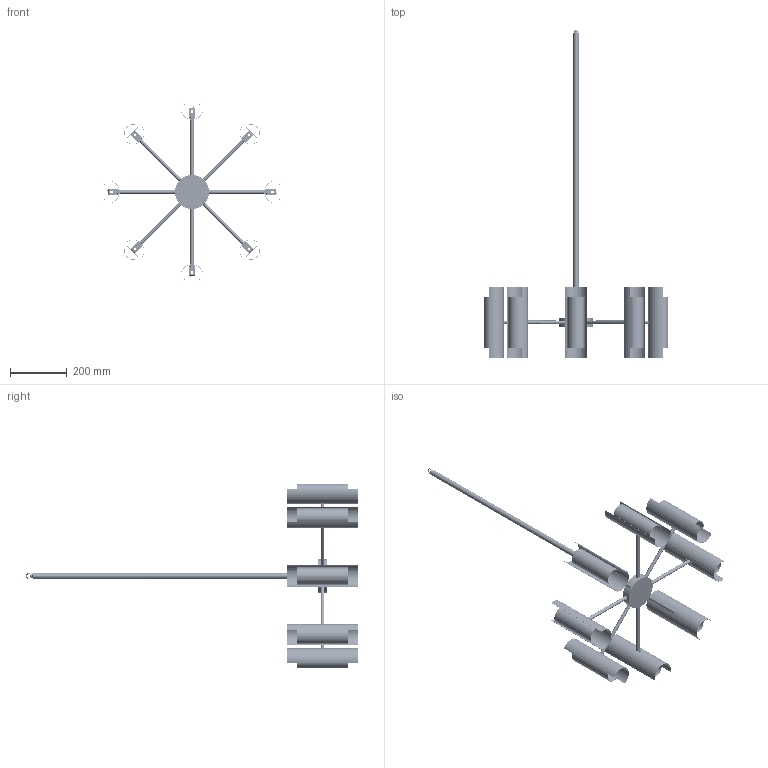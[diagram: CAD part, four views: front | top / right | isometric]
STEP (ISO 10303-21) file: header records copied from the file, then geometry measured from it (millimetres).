
FILE_DESCRIPTION((''),'2;1');
FILE_NAME('TCH100_ASM','2023-01-09T19:40:49',('adriano.sorzio'),(''),'CREO PARAMETRIC BY PTC INC, 2020354','CREO PARAMETRIC BY PTC INC, 2020354','');
FILE_SCHEMA(('CONFIG_CONTROL_DESIGN','SHAPE_APPEARANCE_LAYERS_GROUPS'));
Products named in the file (23): 01030; 01033; M3X8-UNI5933; M3X25-UNI5933; 01032; 01030C1_ASM; 01038; T-10-25-21; 01039; 01040; 7687-X2-M3X10; 01041; 01042; 01041SD_ASM; 01043; 7687-X2-M3X5; 01041C_ASM; 01038C_ASM; 01034; 7687-X2-M4X6; 01205; GANCIO; TCH100_ASM
Assembly tree (50 placements, depth 5):
  TCH100_ASM
    01030C1_ASM
      01030
      01033
      M3X8-UNI5933  x6
      M3X25-UNI5933  x8
      01032
    01038C_ASM  x8
      01038
      T-10-25-21
      01039
      01040
      7687-X2-M3X10
      01041C_ASM
        01041SD_ASM
          01041
          01042
        01043
        7687-X2-M3X5  x6
    01034
    7687-X2-M4X6  x4
    01205
    GANCIO
Bounding box: 650 x 1169.48 x 650 mm (x, y, z)
Volume: 909359.8 mm3; surface area: 1279932.1 mm2
Topology: 144 solids, 234 shells, 7250 faces, 18907 edges, 11979 vertices
Faces by surface type: cylinder 3690, plane 1595, bspline 990, cone 690, torus 147, sphere 138
Entity records: 54784 total; most frequent: CARTESIAN_POINT 34481, ORIENTED_EDGE 4310, DIRECTION 3660, EDGE_CURVE 2197, AXIS2_PLACEMENT_3D 1409, VERTEX_POINT 1385, EDGE_LOOP 952, VECTOR 842
